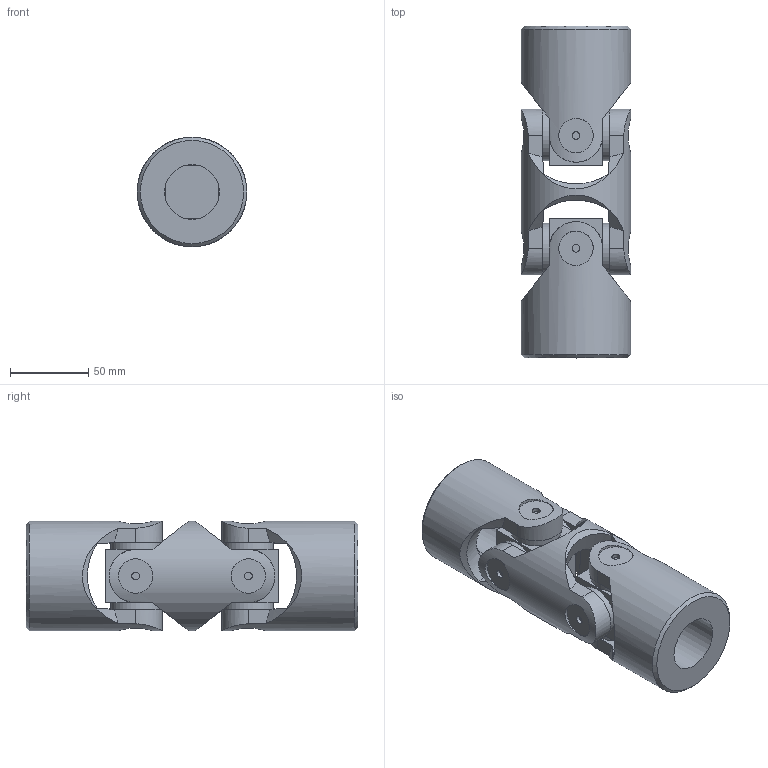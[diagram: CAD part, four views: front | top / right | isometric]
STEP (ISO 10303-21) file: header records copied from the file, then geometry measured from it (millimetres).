
FILE_DESCRIPTION(/* description */ (''),/* implementation_level */ '2;1');
FILE_NAME(/* name */ '\\SRV2016\Societa\Stefano\Disegni 3D\00Catalogo 3D\02Doppi GD-GBD\SG0D3500.stp',/* time_stamp */ '2021-11-23T15:57:48+01:00',/* author */ ('acquisti'),/* organization */ (''),/* preprocessor_version */ 'ST-DEVELOPER v15.6',/* originating_system */ 'Autodesk Inventor 2015',/* authorisation */ '');
FILE_SCHEMA (('AUTOMOTIVE_DESIGN { 1 0 10303 214 3 1 1 }'));
Length unit declared in the file: millimetre
Products named in the file (4): 7G MOD; 7G SFE; 7G MOS; Ø70_7GD-00_SG0D3500
Assembly tree (5 placements, depth 2):
  Ø70_7GD-00_SG0D3500
    7G MOD
    7G SFE  x2
    7G MOS  x2
Bounding box: 70 x 212 x 70 mm (x, y, z)
Volume: 524318.7 mm3; surface area: 97069.9 mm2
Topology: 5 solids, 5 shells, 134 faces, 320 edges, 216 vertices
Faces by surface type: plane 70, cylinder 40, cone 20, torus 4
Full cylindrical faces by diameter (mm): 5 x8, 22 x8, 32 x8, 35 x2, 40 x3, 70 x3
Entity records: 3328 total; most frequent: CARTESIAN_POINT 1289, ORIENTED_EDGE 392, DIRECTION 382, EDGE_CURVE 196, AXIS2_PLACEMENT_3D 167, VERTEX_POINT 150, EDGE_LOOP 134, FACE_OUTER_BOUND 91
